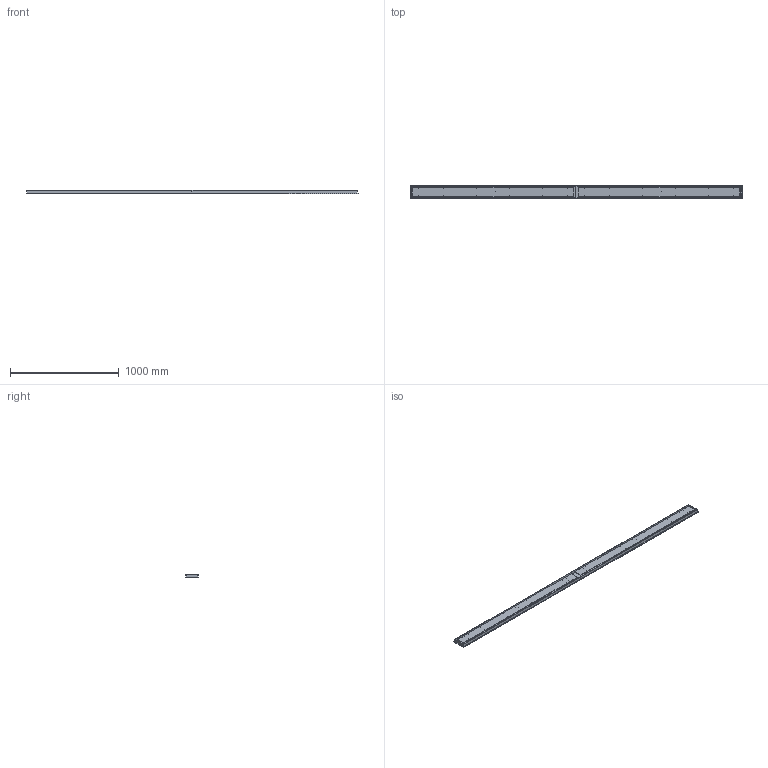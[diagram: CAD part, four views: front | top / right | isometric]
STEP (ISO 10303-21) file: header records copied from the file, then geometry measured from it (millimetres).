
FILE_DESCRIPTION(/* description */ (''),/* implementation_level */ '2;1');
FILE_NAME(/* name */ 'SkLO_Linear_Canopy_10''_MCL010_3D',/* time_stamp */ '2024-10-18T17:34:58+02:00',/* author */ (''),/* organization */ (''),/* preprocessor_version */ 'ST-DEVELOPER v16.5',/* originating_system */ 'Rhino 7.34',/* authorisation */ '');
FILE_SCHEMA (('CONFIG_CONTROL_DESIGN'));
Length unit declared in the file: millimetre
Products named in the file (1): Document
Bounding box: 3050 x 127 x 28.3 mm (x, y, z)
Volume: 2331507.2 mm3; surface area: 1608663.2 mm2
Topology: 4 solids, 16 shells, 344 faces, 885 edges, 578 vertices
Faces by surface type: cylinder 142, plane 126, bspline 76
Full cylindrical faces by diameter (mm): 3 x32, 5.249 x12, 6 x24, 6.2 x36, 10 x12, 40 x2
Entity records: 15599 total; most frequent: CARTESIAN_POINT 9963, ORIENTED_EDGE 1664, EDGE_CURVE 838, VERTEX_POINT 540, EDGE_LOOP 478, B_SPLINE_CURVE_WITH_KNOTS 354, ADVANCED_FACE 344, FACE_OUTER_BOUND 344
